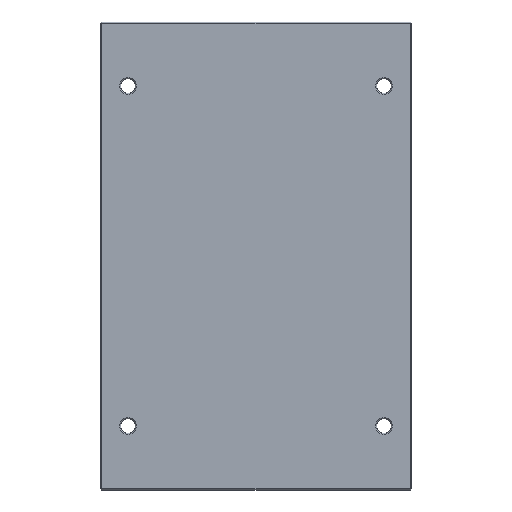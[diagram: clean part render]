
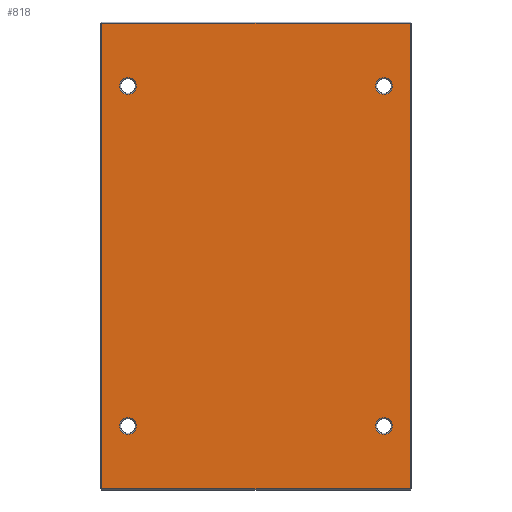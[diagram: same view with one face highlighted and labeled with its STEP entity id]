
A CAD part, front view. The second image highlights one B-rep face of the part: STEP entity #818.
In plain terms, the highlighted planar face has unit normal (0, -1, 0).
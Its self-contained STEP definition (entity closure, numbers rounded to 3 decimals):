
#5 = VECTOR ( 'NONE', #652, 1000. ) ;
#10 = FACE_BOUND ( 'NONE', #894, .T. ) ;
#12 = FACE_BOUND ( 'NONE', #1488, .T. ) ;
#16 = LINE ( 'NONE', #661, #5 ) ;
#26 = CIRCLE ( 'NONE', #1164, 8. ) ;
#56 = EDGE_LOOP ( 'NONE', ( #618, #134 ) ) ;
#71 = CARTESIAN_POINT ( 'NONE',  ( -122., 0., 154. ) ) ;
#82 = ORIENTED_EDGE ( 'NONE', *, *, #1006, .T. ) ;
#85 = CARTESIAN_POINT ( 'NONE',  ( -122., 0., -154. ) ) ;
#86 = EDGE_CURVE ( 'NONE', #1541, #1512, #1411, .T. ) ;
#134 = ORIENTED_EDGE ( 'NONE', *, *, #406, .T. ) ;
#141 = VERTEX_POINT ( 'NONE', #1613 ) ;
#263 = DIRECTION ( 'NONE',  ( 0., 0., 1. ) ) ;
#272 = ORIENTED_EDGE ( 'NONE', *, *, #1601, .T. ) ;
#274 = DIRECTION ( 'NONE',  ( 0., 1., 0. ) ) ;
#279 = CARTESIAN_POINT ( 'NONE',  ( -122., 0., -162. ) ) ;
#288 = EDGE_CURVE ( 'NONE', #337, #816, #673, .T. ) ;
#321 = DIRECTION ( 'NONE',  ( 0., 0., 1. ) ) ;
#324 = ORIENTED_EDGE ( 'NONE', *, *, #509, .T. ) ;
#333 = DIRECTION ( 'NONE',  ( 0., 1., 0. ) ) ;
#337 = VERTEX_POINT ( 'NONE', #435 ) ;
#338 = CARTESIAN_POINT ( 'NONE',  ( 122., 0., -162. ) ) ;
#353 = VECTOR ( 'NONE', #980, 1000. ) ;
#360 = EDGE_CURVE ( 'NONE', #1594, #531, #1116, .T. ) ;
#370 = DIRECTION ( 'NONE',  ( 0., 0., 1. ) ) ;
#390 = FACE_BOUND ( 'NONE', #1100, .T. ) ;
#406 = EDGE_CURVE ( 'NONE', #531, #1594, #872, .T. ) ;
#435 = CARTESIAN_POINT ( 'NONE',  ( -147., 0., -222. ) ) ;
#442 = CARTESIAN_POINT ( 'NONE',  ( 122., 0., 162. ) ) ;
#451 = CIRCLE ( 'NONE', #1061, 8. ) ;
#480 = VERTEX_POINT ( 'NONE', #1068 ) ;
#486 = DIRECTION ( 'NONE',  ( 0., 1., 0. ) ) ;
#489 = CARTESIAN_POINT ( 'NONE',  ( 0., 0., 222. ) ) ;
#509 = EDGE_CURVE ( 'NONE', #1512, #1541, #645, .T. ) ;
#523 = AXIS2_PLACEMENT_3D ( 'NONE', #1574, #1644, #1633 ) ;
#524 = DIRECTION ( 'NONE',  ( 0., 0., 1. ) ) ;
#527 = CARTESIAN_POINT ( 'NONE',  ( -122., 0., -170. ) ) ;
#531 = VERTEX_POINT ( 'NONE', #85 ) ;
#532 = DIRECTION ( 'NONE',  ( -1., 0., 0. ) ) ;
#597 = VERTEX_POINT ( 'NONE', #919 ) ;
#618 = ORIENTED_EDGE ( 'NONE', *, *, #360, .T. ) ;
#638 = CIRCLE ( 'NONE', #1040, 8. ) ;
#644 = EDGE_CURVE ( 'NONE', #1270, #480, #1020, .T. ) ;
#645 = CIRCLE ( 'NONE', #1272, 8. ) ;
#652 = DIRECTION ( 'NONE',  ( 0., 0., -1. ) ) ;
#661 = CARTESIAN_POINT ( 'NONE',  ( -147., 0., 0. ) ) ;
#664 = CARTESIAN_POINT ( 'NONE',  ( 122., 0., 154. ) ) ;
#670 = FACE_OUTER_BOUND ( 'NONE', #1170, .T. ) ;
#671 = CARTESIAN_POINT ( 'NONE',  ( 147., 0., 0. ) ) ;
#673 = LINE ( 'NONE', #981, #353 ) ;
#696 = ORIENTED_EDGE ( 'NONE', *, *, #86, .T. ) ;
#730 = VERTEX_POINT ( 'NONE', #944 ) ;
#754 = VERTEX_POINT ( 'NONE', #71 ) ;
#771 = CARTESIAN_POINT ( 'NONE',  ( 122., 0., 170. ) ) ;
#782 = ORIENTED_EDGE ( 'NONE', *, *, #1279, .T. ) ;
#787 = EDGE_CURVE ( 'NONE', #480, #1270, #26, .T. ) ;
#816 = VERTEX_POINT ( 'NONE', #1056 ) ;
#818 = ADVANCED_FACE ( 'NONE', ( #390, #12, #10, #1018, #670 ), #977, .F. ) ;
#872 = CIRCLE ( 'NONE', #523, 8. ) ;
#891 = CARTESIAN_POINT ( 'NONE',  ( 0., 0., 0. ) ) ;
#894 = EDGE_LOOP ( 'NONE', ( #1412, #782 ) ) ;
#896 = DIRECTION ( 'NONE',  ( 0., 0., 1. ) ) ;
#919 = CARTESIAN_POINT ( 'NONE',  ( -147., 0., 222. ) ) ;
#944 = CARTESIAN_POINT ( 'NONE',  ( 147., 0., 222. ) ) ;
#971 = DIRECTION ( 'NONE',  ( 0., 1., 0. ) ) ;
#977 = PLANE ( 'NONE',  #1109 ) ;
#980 = DIRECTION ( 'NONE',  ( 1., 0., 0. ) ) ;
#981 = CARTESIAN_POINT ( 'NONE',  ( 0., 0., -222. ) ) ;
#1006 = EDGE_CURVE ( 'NONE', #816, #730, #1451, .T. ) ;
#1018 = FACE_BOUND ( 'NONE', #56, .T. ) ;
#1020 = CIRCLE ( 'NONE', #1225, 8. ) ;
#1040 = AXIS2_PLACEMENT_3D ( 'NONE', #1160, #1155, #1151 ) ;
#1056 = CARTESIAN_POINT ( 'NONE',  ( 147., 0., -222. ) ) ;
#1061 = AXIS2_PLACEMENT_3D ( 'NONE', #1382, #1376, #1366 ) ;
#1068 = CARTESIAN_POINT ( 'NONE',  ( 122., 0., -170. ) ) ;
#1100 = EDGE_LOOP ( 'NONE', ( #1533, #1135 ) ) ;
#1109 = AXIS2_PLACEMENT_3D ( 'NONE', #891, #971, #896 ) ;
#1116 = CIRCLE ( 'NONE', #1232, 8. ) ;
#1135 = ORIENTED_EDGE ( 'NONE', *, *, #644, .T. ) ;
#1144 = DIRECTION ( 'NONE',  ( 0., 0., 1. ) ) ;
#1151 = DIRECTION ( 'NONE',  ( 0., 0., 1. ) ) ;
#1155 = DIRECTION ( 'NONE',  ( 0., 1., 0. ) ) ;
#1160 = CARTESIAN_POINT ( 'NONE',  ( -122., 0., 162. ) ) ;
#1164 = AXIS2_PLACEMENT_3D ( 'NONE', #1286, #1238, #1174 ) ;
#1170 = EDGE_LOOP ( 'NONE', ( #82, #272, #1658, #1622 ) ) ;
#1174 = DIRECTION ( 'NONE',  ( 0., 0., 1. ) ) ;
#1190 = CARTESIAN_POINT ( 'NONE',  ( 122., 0., -154. ) ) ;
#1200 = EDGE_CURVE ( 'NONE', #754, #141, #451, .T. ) ;
#1225 = AXIS2_PLACEMENT_3D ( 'NONE', #338, #333, #321 ) ;
#1232 = AXIS2_PLACEMENT_3D ( 'NONE', #279, #274, #263 ) ;
#1238 = DIRECTION ( 'NONE',  ( 0., 1., 0. ) ) ;
#1248 = VECTOR ( 'NONE', #524, 1000. ) ;
#1249 = DIRECTION ( 'NONE',  ( 0., 1., 0. ) ) ;
#1270 = VERTEX_POINT ( 'NONE', #1190 ) ;
#1272 = AXIS2_PLACEMENT_3D ( 'NONE', #442, #486, #370 ) ;
#1279 = EDGE_CURVE ( 'NONE', #141, #754, #638, .T. ) ;
#1286 = CARTESIAN_POINT ( 'NONE',  ( 122., 0., -162. ) ) ;
#1358 = CARTESIAN_POINT ( 'NONE',  ( 122., 0., 162. ) ) ;
#1366 = DIRECTION ( 'NONE',  ( 0., 0., 1. ) ) ;
#1375 = VECTOR ( 'NONE', #532, 1000. ) ;
#1376 = DIRECTION ( 'NONE',  ( 0., 1., 0. ) ) ;
#1379 = LINE ( 'NONE', #489, #1375 ) ;
#1382 = CARTESIAN_POINT ( 'NONE',  ( -122., 0., 162. ) ) ;
#1411 = CIRCLE ( 'NONE', #1553, 8. ) ;
#1412 = ORIENTED_EDGE ( 'NONE', *, *, #1200, .T. ) ;
#1451 = LINE ( 'NONE', #671, #1248 ) ;
#1488 = EDGE_LOOP ( 'NONE', ( #696, #324 ) ) ;
#1512 = VERTEX_POINT ( 'NONE', #771 ) ;
#1533 = ORIENTED_EDGE ( 'NONE', *, *, #787, .T. ) ;
#1541 = VERTEX_POINT ( 'NONE', #664 ) ;
#1553 = AXIS2_PLACEMENT_3D ( 'NONE', #1358, #1249, #1144 ) ;
#1554 = EDGE_CURVE ( 'NONE', #597, #337, #16, .T. ) ;
#1574 = CARTESIAN_POINT ( 'NONE',  ( -122., 0., -162. ) ) ;
#1594 = VERTEX_POINT ( 'NONE', #527 ) ;
#1601 = EDGE_CURVE ( 'NONE', #730, #597, #1379, .T. ) ;
#1613 = CARTESIAN_POINT ( 'NONE',  ( -122., 0., 170. ) ) ;
#1622 = ORIENTED_EDGE ( 'NONE', *, *, #288, .T. ) ;
#1633 = DIRECTION ( 'NONE',  ( 0., 0., 1. ) ) ;
#1644 = DIRECTION ( 'NONE',  ( 0., 1., 0. ) ) ;
#1658 = ORIENTED_EDGE ( 'NONE', *, *, #1554, .T. ) ;
